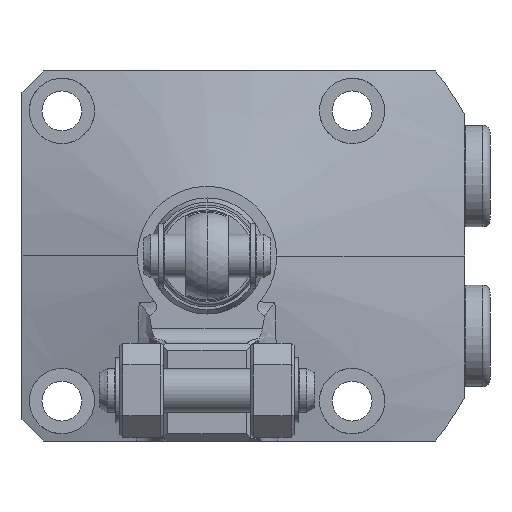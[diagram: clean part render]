
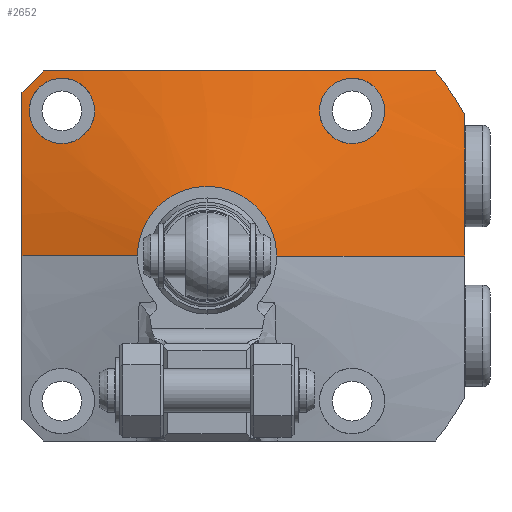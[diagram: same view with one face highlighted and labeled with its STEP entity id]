
A CAD part, left-side view. The second image highlights one B-rep face of the part: STEP entity #2652.
In plain terms, the highlighted conical face has half-angle 75 degrees and reference radius 4 mm.
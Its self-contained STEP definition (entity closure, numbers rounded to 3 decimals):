
#1384=B_SPLINE_CURVE_WITH_KNOTS('',3,(#10175,#10176,#10177,#10178,#10179,
#10180,#10181,#10182,#10183,#10184),.UNSPECIFIED.,.F.,.F.,(4,2,2,2,4),(0.,
0.25,0.5,0.75,1.),.UNSPECIFIED.);
#1385=B_SPLINE_CURVE_WITH_KNOTS('',3,(#10193,#10194,#10195,#10196,#10197,
#10198,#10199,#10200,#10201,#10202),.UNSPECIFIED.,.F.,.F.,(4,2,2,2,4),(0.,
0.25,0.5,0.75,1.),.UNSPECIFIED.);
#1393=B_SPLINE_CURVE_WITH_KNOTS('',3,(#10505,#10506,#10507,#10508),
 .UNSPECIFIED.,.F.,.F.,(4,4),(0.,1.),.UNSPECIFIED.);
#1394=B_SPLINE_CURVE_WITH_KNOTS('',3,(#10512,#10513,#10514,#10515,#10516,
#10517,#10518,#10519),.UNSPECIFIED.,.F.,.F.,(4,2,2,4),(0.,0.5,0.75,1.),
 .UNSPECIFIED.);
#1395=B_SPLINE_CURVE_WITH_KNOTS('',3,(#10521,#10522,#10523,#10524),
 .UNSPECIFIED.,.F.,.F.,(4,4),(0.,1.),.UNSPECIFIED.);
#1396=B_SPLINE_CURVE_WITH_KNOTS('',3,(#10526,#10527,#10528,#10529),
 .UNSPECIFIED.,.F.,.F.,(4,4),(0.,1.),.UNSPECIFIED.);
#1397=B_SPLINE_CURVE_WITH_KNOTS('',3,(#10530,#10531,#10532,#10533,#10534,
#10535,#10536,#10537,#10538,#10539),.UNSPECIFIED.,.F.,.F.,(4,2,2,2,4),(0.,
0.25,0.5,0.75,1.),.UNSPECIFIED.);
#1398=B_SPLINE_CURVE_WITH_KNOTS('',3,(#10540,#10541,#10542,#10543,#10544,
#10545,#10546,#10547,#10548,#10549),.UNSPECIFIED.,.F.,.F.,(4,2,2,2,4),(0.,
0.25,0.5,0.75,1.),.UNSPECIFIED.);
#1465=CONICAL_SURFACE('',#7308,4.,75.);
#1726=FACE_BOUND('',#3429,.T.);
#1727=FACE_BOUND('',#3430,.T.);
#1728=FACE_BOUND('',#3431,.T.);
#2048=LINE('',#10450,#2357);
#2049=LINE('',#10503,#2358);
#2357=VECTOR('',#8527,1.);
#2358=VECTOR('',#8532,1.);
#2652=ADVANCED_FACE('',(#1726,#1727,#1728),#1465,.T.);
#3429=EDGE_LOOP('',(#4210,#4211,#4212,#4213,#4214,#4215,#4216,#4217));
#3430=EDGE_LOOP('',(#4218,#4219));
#3431=EDGE_LOOP('',(#4220,#4221));
#4210=ORIENTED_EDGE('',*,*,#6098,.F.);
#4211=ORIENTED_EDGE('',*,*,#6104,.T.);
#4212=ORIENTED_EDGE('',*,*,#6105,.T.);
#4213=ORIENTED_EDGE('',*,*,#6106,.T.);
#4214=ORIENTED_EDGE('',*,*,#6107,.T.);
#4215=ORIENTED_EDGE('',*,*,#6108,.T.);
#4216=ORIENTED_EDGE('',*,*,#6109,.T.);
#4217=ORIENTED_EDGE('',*,*,#6110,.F.);
#4218=ORIENTED_EDGE('',*,*,#5987,.T.);
#4219=ORIENTED_EDGE('',*,*,#6111,.T.);
#4220=ORIENTED_EDGE('',*,*,#5983,.T.);
#4221=ORIENTED_EDGE('',*,*,#6112,.T.);
#5423=VERTEX_POINT('',#10174);
#5424=VERTEX_POINT('',#10185);
#5427=VERTEX_POINT('',#10192);
#5428=VERTEX_POINT('',#10203);
#5516=VERTEX_POINT('',#10449);
#5517=VERTEX_POINT('',#10451);
#5522=VERTEX_POINT('',#10502);
#5523=VERTEX_POINT('',#10504);
#5524=VERTEX_POINT('',#10509);
#5525=VERTEX_POINT('',#10511);
#5526=VERTEX_POINT('',#10520);
#5527=VERTEX_POINT('',#10525);
#5983=EDGE_CURVE('',#5424,#5423,#1384,.T.);
#5987=EDGE_CURVE('',#5428,#5427,#1385,.T.);
#6098=EDGE_CURVE('',#5516,#5517,#2048,.T.);
#6104=EDGE_CURVE('',#5516,#5522,#6757,.T.);
#6105=EDGE_CURVE('',#5522,#5523,#2049,.T.);
#6106=EDGE_CURVE('',#5523,#5524,#1393,.T.);
#6107=EDGE_CURVE('',#5524,#5525,#6758,.T.);
#6108=EDGE_CURVE('',#5525,#5526,#1394,.T.);
#6109=EDGE_CURVE('',#5526,#5527,#1395,.T.);
#6110=EDGE_CURVE('',#5517,#5527,#1396,.T.);
#6111=EDGE_CURVE('',#5427,#5428,#1397,.T.);
#6112=EDGE_CURVE('',#5423,#5424,#1398,.T.);
#6757=CIRCLE('',#7306,9.598);
#6758=CIRCLE('',#7307,40.5);
#7306=AXIS2_PLACEMENT_3D('',#10501,#8530,#8531);
#7307=AXIS2_PLACEMENT_3D('',#10510,#8533,#8534);
#7308=AXIS2_PLACEMENT_3D('',#10550,#8535,#8536);
#8527=DIRECTION('',(0.259,0.966,0.));
#8530=DIRECTION('',(1.,0.,0.));
#8531=DIRECTION('',(0.,0.,1.));
#8532=DIRECTION('',(0.259,-0.966,0.));
#8533=DIRECTION('',(-1.,0.,0.));
#8534=DIRECTION('',(0.,0.,-1.));
#8535=DIRECTION('',(1.,0.,0.));
#8536=DIRECTION('',(0.,-1.,0.));
#10174=CARTESIAN_POINT('',(-23.792,-20.,15.5));
#10175=CARTESIAN_POINT('',(-22.097,-20.,24.5));
#10176=CARTESIAN_POINT('',(-21.895,-21.192,24.5));
#10177=CARTESIAN_POINT('',(-21.785,-22.376,24.004));
#10178=CARTESIAN_POINT('',(-21.79,-24.047,22.301));
#10179=CARTESIAN_POINT('',(-21.907,-24.52,21.101));
#10180=CARTESIAN_POINT('',(-22.315,-24.478,18.739));
#10181=CARTESIAN_POINT('',(-22.603,-23.976,17.594));
#10182=CARTESIAN_POINT('',(-23.219,-22.317,15.971));
#10183=CARTESIAN_POINT('',(-23.541,-21.182,15.5));
#10184=CARTESIAN_POINT('',(-23.792,-20.,15.5));
#10185=CARTESIAN_POINT('',(-22.097,-20.,24.5));
#10192=CARTESIAN_POINT('',(-23.792,20.,15.5));
#10193=CARTESIAN_POINT('',(-22.097,20.,24.5));
#10194=CARTESIAN_POINT('',(-22.3,18.806,24.5));
#10195=CARTESIAN_POINT('',(-22.585,17.658,24.013));
#10196=CARTESIAN_POINT('',(-23.197,16.012,22.385));
#10197=CARTESIAN_POINT('',(-23.526,15.52,21.239));
#10198=CARTESIAN_POINT('',(-24.027,15.482,18.907));
#10199=CARTESIAN_POINT('',(-24.195,15.946,17.706));
#10200=CARTESIAN_POINT('',(-24.202,17.63,15.991));
#10201=CARTESIAN_POINT('',(-24.043,18.815,15.5));
#10202=CARTESIAN_POINT('',(-23.792,20.,15.5));
#10203=CARTESIAN_POINT('',(-22.097,20.,24.5));
#10449=CARTESIAN_POINT('',(-28.,9.598,0.));
#10450=CARTESIAN_POINT('',(-29.5,4.,0.));
#10451=CARTESIAN_POINT('',(-23.739,25.5,0.));
#10501=CARTESIAN_POINT('',(-28.,0.,0.));
#10502=CARTESIAN_POINT('',(-28.,-9.598,0.));
#10503=CARTESIAN_POINT('',(-29.5,-4.,0.));
#10504=CARTESIAN_POINT('',(-21.06,-35.5,0.));
#10505=CARTESIAN_POINT('',(-21.06,-35.5,0.));
#10506=CARTESIAN_POINT('',(-21.06,-35.5,6.529));
#10507=CARTESIAN_POINT('',(-20.554,-35.5,13.022));
#10508=CARTESIAN_POINT('',(-19.72,-35.5,19.494));
#10509=CARTESIAN_POINT('',(-19.72,-35.5,19.494));
#10510=CARTESIAN_POINT('',(-19.72,0.,0.));
#10511=CARTESIAN_POINT('',(-19.72,-31.464,25.5));
#10512=CARTESIAN_POINT('',(-19.72,-31.464,25.5));
#10513=CARTESIAN_POINT('',(-21.569,-22.582,25.5));
#10514=CARTESIAN_POINT('',(-23.19,-13.681,25.5));
#10515=CARTESIAN_POINT('',(-23.843,-0.177,25.5));
#10516=CARTESIAN_POINT('',(-23.737,4.352,25.5));
#10517=CARTESIAN_POINT('',(-22.932,13.461,25.5));
#10518=CARTESIAN_POINT('',(-22.259,17.993,25.5));
#10519=CARTESIAN_POINT('',(-21.46,22.5,25.5));
#10520=CARTESIAN_POINT('',(-21.46,22.5,25.5));
#10521=CARTESIAN_POINT('',(-21.46,22.5,25.5));
#10522=CARTESIAN_POINT('',(-21.483,23.5,24.5));
#10523=CARTESIAN_POINT('',(-21.483,24.5,23.5));
#10524=CARTESIAN_POINT('',(-21.46,25.5,22.5));
#10525=CARTESIAN_POINT('',(-21.46,25.5,22.5));
#10526=CARTESIAN_POINT('',(-23.739,25.5,0.));
#10527=CARTESIAN_POINT('',(-23.739,25.5,7.577));
#10528=CARTESIAN_POINT('',(-22.779,25.5,15.057));
#10529=CARTESIAN_POINT('',(-21.46,25.5,22.5));
#10530=CARTESIAN_POINT('',(-23.792,20.,15.5));
#10531=CARTESIAN_POINT('',(-23.541,21.183,15.5));
#10532=CARTESIAN_POINT('',(-23.218,22.32,15.974));
#10533=CARTESIAN_POINT('',(-22.605,23.973,17.591));
#10534=CARTESIAN_POINT('',(-22.315,24.477,18.741));
#10535=CARTESIAN_POINT('',(-21.909,24.522,21.088));
#10536=CARTESIAN_POINT('',(-21.79,24.054,22.291));
#10537=CARTESIAN_POINT('',(-21.784,22.377,24.005));
#10538=CARTESIAN_POINT('',(-21.895,21.193,24.5));
#10539=CARTESIAN_POINT('',(-22.097,20.,24.5));
#10540=CARTESIAN_POINT('',(-23.792,-20.,15.5));
#10541=CARTESIAN_POINT('',(-24.043,-18.815,15.5));
#10542=CARTESIAN_POINT('',(-24.202,-17.631,15.992));
#10543=CARTESIAN_POINT('',(-24.196,-15.955,17.694));
#10544=CARTESIAN_POINT('',(-24.03,-15.483,18.892));
#10545=CARTESIAN_POINT('',(-23.525,-15.518,21.244));
#10546=CARTESIAN_POINT('',(-23.198,-16.009,22.382));
#10547=CARTESIAN_POINT('',(-22.584,-17.661,24.016));
#10548=CARTESIAN_POINT('',(-22.3,-18.806,24.5));
#10549=CARTESIAN_POINT('',(-22.097,-20.,24.5));
#10550=CARTESIAN_POINT('',(-29.5,0.,0.));
